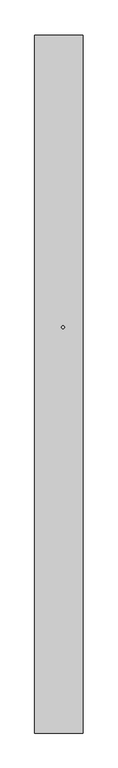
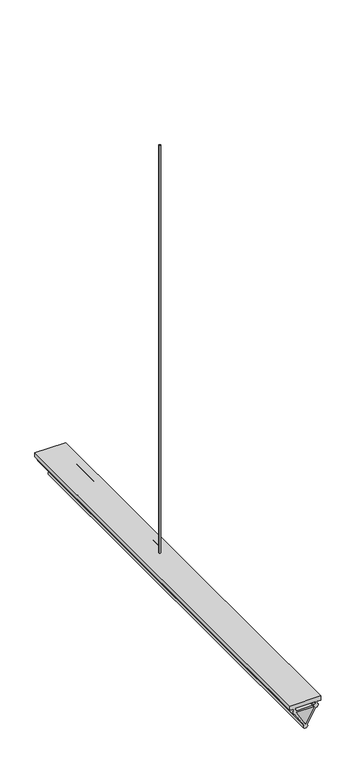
"""IFC4 building model written with IfcOpenShell, lengths in millimetres: proxy geometry, sztankiet : sztankiet."""

import ifcopenshell
import ifcopenshell.guid

model = None  # the IFC model being written
_history = None  # IfcOwnerHistory: only IFC2X3 demands one
_inside = {}  # id of a spatial element -> (the spatial element, [elements in it])
_under = {}  # id of a project, library or spatial element -> (it, [spatial elements below it])
_declared = {}  # id of a project -> (the project, [libraries it declares])
_typed = {}  # id of a type object -> (the type object, [elements of that type])
_made_of = {}  # id of a material, layer set ... -> (it, [elements and type objects made of it])


def new_model(schema):
    """Start an empty IFC model of exactly this schema.

    Asked for "IFC4X3", IfcOpenShell would pick the latest addendum, in which some entities
    have other attributes; the version numbers below select the first issue.
    IFC2X3 requires an IfcOwnerHistory on every rooted entity: one is made here for all.
    """
    global model, _history
    if schema == "IFC4X3":
        model = ifcopenshell.file(schema_version=(4, 3, 0, 0))
    else:
        model = ifcopenshell.file(schema=schema)
    _inside.clear()
    _under.clear()
    _declared.clear()
    _typed.clear()
    _made_of.clear()
    _history = None
    if model.schema == "IFC2X3":
        org = make("IfcOrganization", Name="unknown")
        user = make(
            "IfcPersonAndOrganization",
            ThePerson=make("IfcPerson", FamilyName="unknown"),
            TheOrganization=org,
        )
        app = make(
            "IfcApplication",
            ApplicationDeveloper=org,
            Version="unknown",
            ApplicationFullName="unknown",
            ApplicationIdentifier="unknown",
        )
        _history = make(
            "IfcOwnerHistory",
            OwningUser=user,
            OwningApplication=app,
            ChangeAction="ADDED",
            CreationDate=0,
        )
    return model


def make(cls, **values):
    """One entity of the class cls with the attributes given. An attribute that is None is left unset."""
    return model.create_entity(
        cls, **{name: value for name, value in values.items() if value is not None}
    )


def rooted(cls, **values):
    """An entity with a GlobalId (a new one), such as an element, a storey or a relation."""
    return make(cls, GlobalId=ifcopenshell.guid.new(), OwnerHistory=_history, **values)


def si_unit(unit_type, name, prefix=None):
    """IfcSIUnit, for example si_unit("LENGTHUNIT", "METRE", prefix="MILLI")."""
    return make("IfcSIUnit", UnitType=unit_type, Prefix=prefix, Name=name)


def assignment(units):
    """IfcUnitAssignment: the units of a project."""
    return None if units is None else make("IfcUnitAssignment", Units=units)


def point(xyz):
    """IfcCartesianPoint."""
    return None if xyz is None else make("IfcCartesianPoint", Coordinates=xyz)


def direction(xyz):
    """IfcDirection."""
    return None if xyz is None else make("IfcDirection", DirectionRatios=xyz)


def frame(location, z_axis=None, x_axis=None):
    """IfcAxis2Placement3D, a coordinate frame: its origin and axes. An axis left out is left unset."""
    return make(
        "IfcAxis2Placement3D",
        Location=point(location),
        Axis=direction(z_axis),
        RefDirection=direction(x_axis),
    )


def frame_2d(location, x_axis=None):
    """IfcAxis2Placement2D, a coordinate frame in the plane: its origin and x axis."""
    return make(
        "IfcAxis2Placement2D", Location=point(location), RefDirection=direction(x_axis)
    )


def origin():
    """The frame at (0, 0, 0) with its axes left unset."""
    return frame((0.0, 0.0, 0.0))


def place(relative_to, where):
    """IfcLocalPlacement: puts the frame where relative to a parent placement (None: the world)."""
    return make(
        "IfcLocalPlacement", PlacementRelTo=relative_to, RelativePlacement=where
    )


def context(
    kind, dimensions, precision=None, world=None, true_north=None, identifier=None
):
    """IfcGeometricRepresentationContext, for example the 3D "Model" context."""
    return make(
        "IfcGeometricRepresentationContext",
        ContextIdentifier=identifier,
        ContextType=kind,
        CoordinateSpaceDimension=dimensions,
        Precision=precision,
        WorldCoordinateSystem=world,
        TrueNorth=true_north,
    )


def project(units=None, contexts=None):
    """IfcProject with its units and contexts."""
    return rooted(
        "IfcProject",
        Name="project",
        RepresentationContexts=contexts,
        UnitsInContext=assignment(units),
    )


def spatial(cls, under=None, at=None, **own):
    """A site, building, storey or space (cls), placed at a placement, below another one or the project."""
    s = rooted(cls, ObjectPlacement=at, **own)
    if under is not None:
        _under.setdefault(under.id(), (under, []))[1].append(s)
    return s


def polyline(points):
    """IfcPolyline through the points."""
    return make("IfcPolyline", Points=[point(p) for p in points])


def circle_curve(where, radius):
    """IfcCircle in the frame where."""
    return make("IfcCircle", Position=where, Radius=radius)


def trimmed(basis, trim1, trim2, sense, master):
    """IfcTrimmedCurve: the piece of a basis curve between two trims."""
    return make(
        "IfcTrimmedCurve",
        BasisCurve=basis,
        Trim1=trim1,
        Trim2=trim2,
        SenseAgreement=sense,
        MasterRepresentation=master,
    )


def segment(curve, same_sense, transition):
    """IfcCompositeCurveSegment."""
    return make(
        "IfcCompositeCurveSegment",
        Transition=transition,
        SameSense=same_sense,
        ParentCurve=curve,
    )


def composite_curve(segments, self_intersect=None):
    """IfcCompositeCurve: segments joined end to end."""
    return make("IfcCompositeCurve", Segments=segments, SelfIntersect=self_intersect)


def outline(outer, holes=None, kind="AREA"):
    """IfcArbitraryClosedProfileDef: a profile drawn as a closed curve; with holes, ...WithVoids."""
    if holes is None:
        return make("IfcArbitraryClosedProfileDef", ProfileType=kind, OuterCurve=outer)
    return make(
        "IfcArbitraryProfileDefWithVoids",
        ProfileType=kind,
        OuterCurve=outer,
        InnerCurves=holes,
    )


def extrude(swept, where, along, depth):
    """IfcExtrudedAreaSolid: the profile swept, set in the frame where, extruded along a direction by depth."""
    return make(
        "IfcExtrudedAreaSolid",
        SweptArea=swept,
        Position=where,
        ExtrudedDirection=direction(along),
        Depth=depth,
    )


def shape(context_of_items, identifier, shape_type, items):
    """IfcShapeRepresentation: the items that make up one representation, for example the "Body"."""
    return make(
        "IfcShapeRepresentation",
        ContextOfItems=context_of_items,
        RepresentationIdentifier=identifier,
        RepresentationType=shape_type,
        Items=items,
    )


def source(mapping_origin, context_of_items, identifier, shape_type, items):
    """IfcRepresentationMap: a shape defined once, which mapped items show again and again."""
    return make(
        "IfcRepresentationMap",
        MappingOrigin=mapping_origin,
        MappedRepresentation=shape(context_of_items, identifier, shape_type, items),
    )


def transform(
    local_origin,
    x_axis=None,
    y_axis=None,
    z_axis=None,
    scale=None,
    scale2=None,
    scale3=None,
    uniform=True,
):
    """IfcCartesianTransformationOperator3D, or its non-uniform kind. x_axis, y_axis, z_axis: its Axis1, 2, 3."""
    if uniform:
        return make(
            "IfcCartesianTransformationOperator3D",
            Axis1=direction(x_axis),
            Axis2=direction(y_axis),
            LocalOrigin=point(local_origin),
            Scale=scale,
            Axis3=direction(z_axis),
        )
    return make(
        "IfcCartesianTransformationOperator3DnonUniform",
        Axis1=direction(x_axis),
        Axis2=direction(y_axis),
        LocalOrigin=point(local_origin),
        Scale=scale,
        Axis3=direction(z_axis),
        Scale2=scale2,
        Scale3=scale3,
    )


def mapped(mapping_source, mapping_target):
    """IfcMappedItem: shows the shape of a source again, moved by a transform."""
    return make(
        "IfcMappedItem", MappingSource=mapping_source, MappingTarget=mapping_target
    )


def made_of(thing, what):
    """Note that an element or type object is made of a material, layer set ...; save() writes the relation."""
    if what is not None:
        _made_of.setdefault(what.id(), (what, []))[1].append(thing)
    return thing


def element(
    cls,
    number,
    at=None,
    inside=None,
    cuts=None,
    type_object=None,
    material=None,
    context=None,
    identifier="Body",
    shape_type=None,
    held_by="IfcProductDefinitionShape",
    body=None,
    shapes=None,
    **own,
):
    """One element of the class cls, such as IfcWall. Its Tag is "e" and its number.

    at: its placement. inside: the storey or other place that contains it. cuts: it is an
    opening in that element (IfcRelVoidsElement). A single representation is given by context,
    identifier, shape_type and body (its items); several are given by shapes. held_by: the class
    of the entity that holds the representations. save() writes the other relations.
    """
    e = rooted(cls, Tag="e%d" % number, ObjectPlacement=at, **own)
    if body is not None:
        shapes = [shape(context, identifier, shape_type, body)]
    if shapes is not None:
        e.Representation = make(held_by, Representations=shapes)
    if inside is not None:
        _inside.setdefault(inside.id(), (inside, []))[1].append(e)
    if cuts is not None:
        rooted(
            "IfcRelVoidsElement", RelatingBuildingElement=cuts, RelatedOpeningElement=e
        )
    if type_object is not None:
        _typed.setdefault(type_object.id(), (type_object, []))[1].append(e)
    return made_of(e, material)


def aggregate(whole, parts):
    """IfcRelAggregates: a whole, such as a stair, and the parts it consists of."""
    return rooted("IfcRelAggregates", RelatingObject=whole, RelatedObjects=parts)


def save(model, path):
    """Write the relations noted so far, then the file.

    IfcRelAggregates (storeys below a building ...), IfcRelContainedInSpatialStructure (elements
    in a storey), IfcRelDefinesByType, IfcRelAssociatesMaterial and IfcRelDeclares: one each for
    every whole, place, type object, material and project.
    """
    for whole, parts in _under.values():
        aggregate(whole, parts)
    for where, things in _inside.values():
        rooted(
            "IfcRelContainedInSpatialStructure",
            RelatedElements=things,
            RelatingStructure=where,
        )
    for kind, things in _typed.values():
        rooted("IfcRelDefinesByType", RelatedObjects=things, RelatingType=kind)
    for what, things in _made_of.values():
        rooted("IfcRelAssociatesMaterial", RelatedObjects=things, RelatingMaterial=what)
    for by, libraries in _declared.values():
        rooted("IfcRelDeclares", RelatingContext=by, RelatedDefinitions=libraries)
    model.write(path)


def generic_models_7f1d2376(model_context):
    return source(origin(), model_context, "Body", "SweptSolid", [
        extrude(outline(composite_curve([segment(trimmed(circle_curve(frame_2d((25.4524499, -2094.2600526)), 10.0), [point((15.4524499, -2094.2600526))], [point((35.4524499, -2094.2600526))], False, "CARTESIAN"), True, "CONTINUOUS"), segment(trimmed(circle_curve(frame_2d((25.4524499, -2094.2600526)), 10.0), [point((35.4524499, -2094.2600526))], [point((15.4524499, -2094.2600526))], False, "CARTESIAN"), True, "CONTINUOUS")], self_intersect=False)), frame((0.0, 0.0, 4022.5937546), z_axis=(0.0, 0.0, 1.0), x_axis=(1.0, 0.0, 0.0)), (0.0, 0.0, 1.0), 4877.4062454),
        extrude(outline(composite_curve([segment(trimmed(circle_curve(frame_2d((3932.5938618, 116.4576657)), 25.0), [point((3907.750727, 113.6614805))], [point((3955.5071071, 126.4568251))], False, "CARTESIAN"), True, "CONTINUOUS"), segment(polyline([(3955.5071071, 126.4568251), (3972.5940407, 126.4568251), (3972.5940407, 170.4576666), (4022.5937546, 170.4576666), (4022.5937546, -177.5423353), (3972.5940407, -177.5423353), (3972.5940407, -133.5414937), (3955.5071071, -133.5414937)]), True, "CONTINUOUS"), segment(trimmed(circle_curve(frame_2d((3932.5938618, -123.5423343)), 25.0), [point((3955.5071071, -133.5414937))], [point((3907.750727, -120.7461491))], False, "CARTESIAN"), True, "CONTINUOUS"), segment(polyline([(3907.750727, -120.7461491), (3739.5908997, -23.6590276)]), True, "CONTINUOUS"), segment(trimmed(circle_curve(frame_2d((3724.7477649, -3.5423343)), 25.0), [point((3739.5908997, -23.6590276))], [point((3739.5908997, 16.574359))], False, "CARTESIAN"), True, "CONTINUOUS"), segment(polyline([(3739.5908997, 16.574359), (3907.750727, 113.6614805)]), True, "CONTINUOUS")], self_intersect=False), holes=[composite_curve([segment(polyline([(3917.750727, 96.3409724), (3749.5908997, -0.7461491)]), True, "CONTINUOUS"), segment(trimmed(circle_curve(frame_2d((3724.7477649, -3.5423343)), 25.0), [point((3749.5908997, -0.7461491))], [point((3749.5908997, -6.3385195))], False, "CARTESIAN"), True, "CONTINUOUS"), segment(polyline([(3749.5908997, -6.3385195), (3917.750727, -103.425641)]), True, "CONTINUOUS"), segment(trimmed(circle_curve(frame_2d((3932.5938618, -123.5423343)), 25.0), [point((3917.750727, -103.425641))], [point((3922.5938618, -100.6294558))], False, "CARTESIAN"), True, "CONTINUOUS"), segment(polyline([(3922.5938618, -100.6294558), (3922.5938618, 93.5447872)]), True, "CONTINUOUS"), segment(trimmed(circle_curve(frame_2d((3932.5938618, 116.4576657)), 25.0), [point((3922.5938618, 93.5447872))], [point((3917.750727, 96.3409724))], False, "CARTESIAN"), True, "CONTINUOUS")], self_intersect=False), composite_curve([segment(polyline([(3942.5938618, 93.5447872), (3942.5938618, -100.6294558)]), True, "CONTINUOUS"), segment(trimmed(circle_curve(frame_2d((3932.5938618, -123.5423343)), 25.0), [point((3942.5938618, -100.6294558))], [point((3955.5063817, -113.5415128))], False, "CARTESIAN"), True, "CONTINUOUS"), segment(polyline([(3955.5063817, -113.5415128), (3972.5940407, -113.5415128), (3972.5940407, 106.4568442), (3955.5063817, 106.4568442)]), True, "CONTINUOUS"), segment(trimmed(circle_curve(frame_2d((3932.5938618, 116.4576657)), 25.0), [point((3955.5063817, 106.4568442))], [point((3942.5938618, 93.5447872))], False, "CARTESIAN"), True, "CONTINUOUS")], self_intersect=False)]), frame((0.0, -5000.0, 0.0), z_axis=(0.0, 1.0, 0.0), x_axis=(0.0, 0.0, 1.0)), (0.0, 0.0, 1.0), 5000.0),
    ])


if __name__ == "__main__":
    model = new_model("IFC4")
    model_context = context("Model", 3, world=origin())
    ifc_project = project(units=[si_unit("LENGTHUNIT", "METRE", prefix="MILLI")], contexts=[model_context])
    site = spatial("IfcSite", under=ifc_project)
    building = spatial("IfcBuilding", under=site)
    placement = place(None, origin())
    generic_models_shape = generic_models_7f1d2376(model_context)
    element("IfcBuildingElementProxy", 1, Name="sztankiet : sztankiet", ObjectType="sztankiet : sztankiet", at=placement, inside=building, context=model_context, shape_type="MappedRepresentation", body=[
        mapped(generic_models_shape, transform((0.0, 0.0, 0.0), x_axis=(1.0, 0.0, 0.0), y_axis=(0.0, 1.0, 0.0), z_axis=(0.0, 0.0, 1.0))),
    ])
    save(model, "model.ifc")
